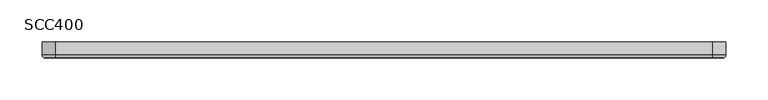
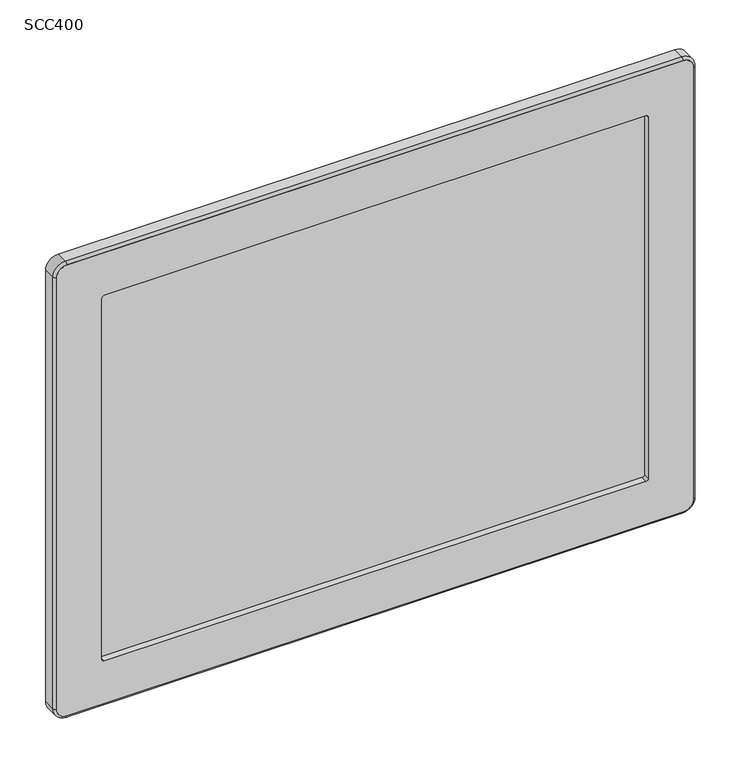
"""IFC4 building model written with IfcOpenShell, lengths in millimetres: furniture geometry, Stance_HC-Camber-Mirror : SCC400."""

from ifc_helpers import new_model, si_unit, point, frame, frame_2d, origin, place, context, project, spatial, polyline, circle_curve, ellipse_curve, trimmed, segment, composite_curve, outline, extrude, source, transform, mapped, element, save
from ifc_brep_helpers import plane_surface, cylinder_surface, revolved_surface, advanced_brep


def scc400_d04c1b15(model_context):
    return source(origin(), model_context, "Body", "SolidModel", [
        extrude(outline(composite_curve([segment(polyline([(1463.6750484, 342.9000123), (1463.6750484, -342.8999892)]), True, "CONTINUOUS"), segment(trimmed(circle_curve(frame_2d((1460.5000515, -342.8999892)), 3.174997), [point((1463.6750484, -342.8999892))], [point((1460.5000515, -346.0749862))], False, "CARTESIAN"), True, "CONTINUOUS"), segment(polyline([(1460.5000515, -346.0749862), (977.9000242, -346.0749862)]), True, "CONTINUOUS"), segment(trimmed(circle_curve(frame_2d((977.9000242, -342.8999862)), 3.175), [point((977.9000242, -346.0749862))], [point((974.7250242, -342.8999862))], False, "CARTESIAN"), True, "CONTINUOUS"), segment(polyline([(974.7250242, -342.8999862), (974.7250242, 342.9000123)]), True, "CONTINUOUS"), segment(trimmed(circle_curve(frame_2d((977.9000242, 342.9000123)), 3.175), [point((974.7250242, 342.9000123))], [point((977.9000242, 346.0750123))], False, "CARTESIAN"), True, "CONTINUOUS"), segment(polyline([(977.9000242, 346.0750123), (1460.5000484, 346.0750123)]), True, "CONTINUOUS"), segment(trimmed(circle_curve(frame_2d((1460.5000484, 342.9000123)), 3.175), [point((1460.5000484, 346.0750123))], [point((1463.6750484, 342.9000123))], False, "CARTESIAN"), True, "CONTINUOUS")], self_intersect=False)), frame((0.0, -7.3919886, 0.0), z_axis=(0.0, 1.0, 0.0), x_axis=(0.0, 0.0, 1.0)), (0.0, 0.0, 1.0), 7.3919886),
        extrude(outline(composite_curve([segment(polyline([(1463.6750484, 342.9000123), (1463.6750484, -342.8999892)]), True, "CONTINUOUS"), segment(trimmed(circle_curve(frame_2d((1460.5000515, -342.8999892)), 3.174997), [point((1463.6750484, -342.8999892))], [point((1460.5000515, -346.0749862))], False, "CARTESIAN"), True, "CONTINUOUS"), segment(polyline([(1460.5000515, -346.0749862), (977.9000242, -346.0749862)]), True, "CONTINUOUS"), segment(trimmed(circle_curve(frame_2d((977.9000242, -342.8999862)), 3.175), [point((977.9000242, -346.0749862))], [point((974.7250242, -342.8999862))], False, "CARTESIAN"), True, "CONTINUOUS"), segment(polyline([(974.7250242, -342.8999862), (974.7250242, 342.9000123)]), True, "CONTINUOUS"), segment(trimmed(circle_curve(frame_2d((977.9000242, 342.9000123)), 3.175), [point((974.7250242, 342.9000123))], [point((977.9000242, 346.0750123))], False, "CARTESIAN"), True, "CONTINUOUS"), segment(polyline([(977.9000242, 346.0750123), (1460.5000484, 346.0750123)]), True, "CONTINUOUS"), segment(trimmed(circle_curve(frame_2d((1460.5000484, 342.9000123)), 3.175), [point((1460.5000484, 346.0750123))], [point((1463.6750484, 342.9000123))], False, "CARTESIAN"), True, "CONTINUOUS")], self_intersect=False)), frame((0.0, -10.4384745, 0.0), z_axis=(0.0, 1.0, 0.0), x_axis=(0.0, 0.0, 1.0)), (0.0, 0.0, 1.0), 3.0464859),
        extrude(outline(composite_curve([segment(polyline([(1520.8249758, 390.5249877), (1520.8249758, -390.5249877)]), True, "CONTINUOUS"), segment(trimmed(circle_curve(frame_2d((1508.125, -390.5249877)), 12.6999758), [point((1520.8249758, -390.5249877))], [point((1508.125, -403.2249635))], False, "CARTESIAN"), True, "CONTINUOUS"), segment(polyline([(1508.125, -403.2249635), (930.275, -403.2249635)]), True, "CONTINUOUS"), segment(trimmed(circle_curve(frame_2d((930.275, -390.5249877)), 12.6999758), [point((930.275, -403.2249635))], [point((917.5750242, -390.5249877))], False, "CARTESIAN"), True, "CONTINUOUS"), segment(polyline([(917.5750242, -390.5249877), (917.5750242, 390.5249877)]), True, "CONTINUOUS"), segment(trimmed(circle_curve(frame_2d((930.275, 390.5249877)), 12.6999758), [point((917.5750242, 390.5249877))], [point((930.275, 403.2249635))], False, "CARTESIAN"), True, "CONTINUOUS"), segment(polyline([(930.275, 403.2249635), (1508.125, 403.2249635)]), True, "CONTINUOUS"), segment(trimmed(circle_curve(frame_2d((1508.125, 390.5249877)), 12.6999758), [point((1508.125, 403.2249635))], [point((1520.8249758, 390.5249877))], False, "CARTESIAN"), True, "CONTINUOUS")], self_intersect=False), holes=[composite_curve([segment(trimmed(circle_curve(frame_2d((1460.5000484, 342.9000123)), 3.175), [point((1463.6750484, 342.9000123))], [point((1460.5000484, 346.0750123))], True, "CARTESIAN"), True, "CONTINUOUS"), segment(polyline([(1460.5000484, 346.0750123), (977.9000242, 346.0750123)]), True, "CONTINUOUS"), segment(trimmed(circle_curve(frame_2d((977.9000242, 342.9000123)), 3.175), [point((977.9000242, 346.0750123))], [point((974.7250242, 342.9000123))], True, "CARTESIAN"), True, "CONTINUOUS"), segment(polyline([(974.7250242, 342.9000123), (974.7250242, -342.8999862)]), True, "CONTINUOUS"), segment(trimmed(circle_curve(frame_2d((977.9000242, -342.8999862)), 3.175), [point((974.7250242, -342.8999862))], [point((977.9000242, -346.0749862))], True, "CARTESIAN"), True, "CONTINUOUS"), segment(polyline([(977.9000242, -346.0749862), (1460.5000515, -346.0749862)]), True, "CONTINUOUS"), segment(trimmed(circle_curve(frame_2d((1460.5000515, -342.8999892)), 3.174997), [point((1460.5000515, -346.0749862))], [point((1463.6750484, -342.8999892))], True, "CARTESIAN"), True, "CONTINUOUS"), segment(polyline([(1463.6750484, -342.8999892), (1463.6750484, 342.9000123)]), True, "CONTINUOUS")], self_intersect=False)]), frame((0.0, -19.05, 0.0), z_axis=(0.0, 1.0, 0.0), x_axis=(0.0, 0.0, 1.0)), (0.0, 0.0, 1.0), 19.05),
        advanced_brep(
        [(403.2249635, -19.05, 1508.125), (390.5249877, -19.05, 1520.8249758), (390.5249877, 0.0, 1520.8249758), (403.2249635, 0.0, 1508.125), (406.3999877, -15.8749996, 1508.125), (390.5249877, -15.8749996, 1524.0), (406.3999877, 0.0, 1508.125), (390.5249877, 0.0, 1524.0), (403.2249635, 0.0, 930.275), (403.2249635, -19.05, 930.275), (406.3999877, -15.8749996, 930.275), (406.3999877, 0.0, 930.275), (390.5249877, -19.05, 917.5750242), (390.5249877, 0.0, 917.5750242), (390.5249877, -15.8749996, 914.4), (390.5249877, 0.0, 914.4), (-390.5249877, 0.0, 917.5750242), (-390.5249877, -19.05, 917.5750242), (-390.5249877, -15.8749996, 914.4), (-390.5249877, 0.0, 914.4), (-403.2249635, -19.05, 930.275), (-403.2249635, 0.0, 930.275), (-406.3999877, -15.8749996, 930.275), (-406.3999877, 0.0, 930.275), (-403.2249635, 0.0, 1508.125), (-403.2249635, -19.05, 1508.125), (-406.3999877, -15.8749996, 1508.125), (-406.3999877, 0.0, 1508.125), (-390.5249877, -19.05, 1520.8249758), (-390.5249877, 0.0, 1520.8249758), (-390.5249877, -15.8749996, 1524.0), (-390.5249877, 0.0, 1524.0)],
        [
            (0, 1, circle_curve(frame((390.5249877, -19.05, 1508.125), z_axis=(0.0, -1.0, 0.0), x_axis=(0.0, 0.0, 1.0)), 12.6999758)),
            (1, 2),
            (2, 3, circle_curve(frame((390.5249877, 0.0, 1508.125), z_axis=(0.0, 1.0, 0.0), x_axis=(0.0, 0.0, 1.0)), 12.6999758)),
            (3, 0),
            (4, 5, circle_curve(frame((390.5249877, -15.8749996, 1508.125), z_axis=(0.0, -1.0, 0.0), x_axis=(0.0, 0.0, 1.0)), 15.875)),
            (5, 1, circle_curve(frame((390.5249877, -15.8749996, 1520.8249996), z_axis=(1.0, 0.0, 0.0), x_axis=(0.0, 0.0, 1.0)), 3.1750004)),
            (0, 4, circle_curve(frame((403.2249873, -15.8749996, 1508.125), z_axis=(0.0, 0.0, 1.0), x_axis=(1.0, 0.0, 0.0)), 3.1750004)),
            (6, 7, circle_curve(frame((390.5249877, 0.0, 1508.125), z_axis=(0.0, -1.0, 0.0), x_axis=(0.0, 0.0, 1.0)), 15.875)),
            (7, 5),
            (4, 6),
            (3, 8),
            (8, 9),
            (9, 0),
            (9, 10, circle_curve(frame((403.2249873, -15.8749996, 930.275), z_axis=(0.0, 0.0, 1.0), x_axis=(1.0, 0.0, 0.0)), 3.1750004)),
            (10, 4),
            (10, 11),
            (11, 6),
            (12, 9, circle_curve(frame((390.5249877, -19.05, 930.275), z_axis=(0.0, -1.0, 0.0), x_axis=(1.0, 0.0, 0.0)), 12.6999758)),
            (8, 13, circle_curve(frame((390.5249877, 0.0, 930.275), z_axis=(0.0, 1.0, 0.0), x_axis=(1.0, 0.0, 0.0)), 12.6999758)),
            (13, 12),
            (14, 10, circle_curve(frame((390.5249877, -15.8749996, 930.275), z_axis=(0.0, -1.0, 0.0), x_axis=(1.0, 0.0, 0.0)), 15.875)),
            (12, 14, circle_curve(frame((390.5249877, -15.8749996, 917.5750004), z_axis=(1.0, 0.0, 0.0), x_axis=(0.0, 0.0, -1.0)), 3.1750004)),
            (15, 11, circle_curve(frame((390.5249877, 0.0, 930.275), z_axis=(0.0, -1.0, 0.0), x_axis=(1.0, 0.0, 0.0)), 15.875)),
            (14, 15),
            (13, 16),
            (16, 17),
            (17, 12),
            (17, 18, circle_curve(frame((-390.5249877, -15.8749996, 917.5750004), z_axis=(1.0, 0.0, 0.0), x_axis=(0.0, 0.0, -1.0)), 3.1750004)),
            (18, 14),
            (18, 19),
            (19, 15),
            (20, 17, circle_curve(frame((-390.5249877, -19.05, 930.275), z_axis=(0.0, -1.0, 0.0), x_axis=(0.0, 0.0, -1.0)), 12.6999758)),
            (16, 21, circle_curve(frame((-390.5249877, 0.0, 930.275), z_axis=(0.0, 1.0, 0.0), x_axis=(0.0, 0.0, -1.0)), 12.6999758)),
            (21, 20),
            (22, 18, circle_curve(frame((-390.5249877, -15.8749996, 930.275), z_axis=(0.0, -1.0, 0.0), x_axis=(0.0, 0.0, -1.0)), 15.875)),
            (20, 22, circle_curve(frame((-403.2249873, -15.8749996, 930.275), z_axis=(0.0, 0.0, -1.0), x_axis=(-1.0, 0.0, 0.0)), 3.1750004)),
            (23, 19, circle_curve(frame((-390.5249877, 0.0, 930.275), z_axis=(0.0, -1.0, 0.0), x_axis=(0.0, 0.0, -1.0)), 15.875)),
            (22, 23),
            (21, 24),
            (24, 25),
            (25, 20),
            (25, 26, circle_curve(frame((-403.2249873, -15.8749996, 1508.125), z_axis=(0.0, 0.0, -1.0), x_axis=(-1.0, 0.0, 0.0)), 3.1750004)),
            (26, 22),
            (26, 27),
            (27, 23),
            (28, 25, circle_curve(frame((-390.5249877, -19.05, 1508.125), z_axis=(0.0, -1.0, 0.0), x_axis=(-1.0, 0.0, 0.0)), 12.6999758)),
            (24, 29, circle_curve(frame((-390.5249877, 0.0, 1508.125), z_axis=(0.0, 1.0, 0.0), x_axis=(-1.0, 0.0, 0.0)), 12.6999758)),
            (29, 28),
            (30, 26, circle_curve(frame((-390.5249877, -15.8749996, 1508.125), z_axis=(0.0, -1.0, 0.0), x_axis=(-1.0, 0.0, 0.0)), 15.875)),
            (28, 30, circle_curve(frame((-390.5249877, -15.8749996, 1520.8249996), z_axis=(-1.0, 0.0, 0.0), x_axis=(0.0, 0.0, 1.0)), 3.1750004)),
            (31, 27, circle_curve(frame((-390.5249877, 0.0, 1508.125), z_axis=(0.0, -1.0, 0.0), x_axis=(-1.0, 0.0, 0.0)), 15.875)),
            (30, 31),
            (29, 2),
            (1, 28),
            (5, 30),
            (7, 31),
        ],
        [
            revolved_surface(polyline([(390.5249877, 0.0, 1520.8249758), (390.5249877, -19.05, 1520.8249758)]), (390.5249877, 0.0, 1508.125), (0.0, 1.0, 0.0)),
            revolved_surface(trimmed(ellipse_curve(frame((390.5249877, -15.8749996, 1520.8249996), z_axis=(-1.0, 0.0, 0.0), x_axis=(0.0, 0.0, 1.0)), 3.1750004, 3.1750004), [point((390.5249877, -19.05, 1520.8249758))], [point((390.5249877, -15.8749996, 1524.0))], True, "CARTESIAN"), (390.5249877, 0.0, 1508.125), (0.0, 1.0, 0.0)),
            cylinder_surface(frame((390.5249877, 0.0, 1508.125), z_axis=(0.0, 1.0, 0.0), x_axis=(0.0, 0.0, 1.0)), 15.875),
            plane_surface(frame((403.2249635, 0.0, 1508.125), z_axis=(-1.0, 0.0, 0.0), x_axis=(0.0, 0.0, -1.0))),
            cylinder_surface(frame((403.2249873, -15.8749996, 1508.125), z_axis=(0.0, 0.0, 1.0), x_axis=(1.0, 0.0, 0.0)), 3.1750004),
            plane_surface(frame((406.3999877, -15.8749996, 1508.125), z_axis=(1.0, 0.0, 0.0), x_axis=(0.0, 0.0, -1.0))),
            revolved_surface(polyline([(403.2249635, 0.0, 930.275), (403.2249635, -19.05, 930.275)]), (390.5249877, 0.0, 930.275), (0.0, 1.0, 0.0)),
            revolved_surface(trimmed(ellipse_curve(frame((403.2249873, -15.8749996, 930.275), z_axis=(0.0, 0.0, 1.0), x_axis=(1.0, 0.0, 0.0)), 3.1750004, 3.1750004), [point((403.2249635, -19.05, 930.275))], [point((406.3999877, -15.8749996, 930.275))], True, "CARTESIAN"), (390.5249877, 0.0, 930.275), (0.0, 1.0, 0.0)),
            cylinder_surface(frame((390.5249877, 0.0, 930.275), z_axis=(0.0, 1.0, 0.0), x_axis=(1.0, 0.0, 0.0)), 15.875),
            plane_surface(frame((390.5249877, 0.0, 917.5750242), z_axis=(0.0, 0.0, 1.0), x_axis=(-1.0, 0.0, 0.0))),
            cylinder_surface(frame((390.5249877, -15.8749996, 917.5750004), z_axis=(1.0, 0.0, 0.0), x_axis=(0.0, 0.0, -1.0)), 3.1750004),
            plane_surface(frame((390.5249877, -15.8749996, 914.4), z_axis=(0.0, 0.0, -1.0), x_axis=(-1.0, 0.0, 0.0))),
            revolved_surface(polyline([(-390.5249877, 0.0, 917.5750242), (-390.5249877, -19.05, 917.5750242)]), (-390.5249877, 0.0, 930.275), (0.0, 1.0, 0.0)),
            revolved_surface(trimmed(ellipse_curve(frame((-390.5249877, -15.8749996, 917.5750004), z_axis=(1.0, 0.0, 0.0), x_axis=(0.0, 0.0, -1.0)), 3.1750004, 3.1750004), [point((-390.5249877, -19.05, 917.5750242))], [point((-390.5249877, -15.8749996, 914.4))], True, "CARTESIAN"), (-390.5249877, 0.0, 930.275), (0.0, 1.0, 0.0)),
            cylinder_surface(frame((-390.5249877, 0.0, 930.275), z_axis=(0.0, 1.0, 0.0), x_axis=(0.0, 0.0, -1.0)), 15.875),
            plane_surface(frame((-403.2249635, 0.0, 930.275), z_axis=(1.0, 0.0, 0.0), x_axis=(0.0, 0.0, 1.0))),
            cylinder_surface(frame((-403.2249873, -15.8749996, 930.275), z_axis=(0.0, 0.0, -1.0), x_axis=(-1.0, 0.0, 0.0)), 3.1750004),
            plane_surface(frame((-406.3999877, -15.8749996, 930.275), z_axis=(-1.0, 0.0, 0.0), x_axis=(0.0, 0.0, 1.0))),
            revolved_surface(polyline([(-403.2249635, 0.0, 1508.125), (-403.2249635, -19.05, 1508.125)]), (-390.5249877, 0.0, 1508.125), (0.0, 1.0, 0.0)),
            revolved_surface(trimmed(ellipse_curve(frame((-403.2249873, -15.8749996, 1508.125), z_axis=(0.0, 0.0, -1.0), x_axis=(-1.0, 0.0, 0.0)), 3.1750004, 3.1750004), [point((-403.2249635, -19.05, 1508.125))], [point((-406.3999877, -15.8749996, 1508.125))], True, "CARTESIAN"), (-390.5249877, 0.0, 1508.125), (0.0, 1.0, 0.0)),
            cylinder_surface(frame((-390.5249877, 0.0, 1508.125), z_axis=(0.0, 1.0, 0.0), x_axis=(-1.0, 0.0, 0.0)), 15.875),
            plane_surface(frame((-390.5249877, 0.0, 1520.8249758), z_axis=(0.0, 0.0, -1.0), x_axis=(1.0, 0.0, 0.0))),
            cylinder_surface(frame((-390.5249877, -15.8749996, 1520.8249996), z_axis=(-1.0, 0.0, 0.0), x_axis=(0.0, 0.0, 1.0)), 3.1750004),
            plane_surface(frame((-390.5249877, -15.8749996, 1524.0), z_axis=(0.0, 0.0, 1.0), x_axis=(1.0, 0.0, 0.0))),
            plane_surface(frame((-390.5249877, 0.0, 1524.0), z_axis=(0.0, 1.0, 0.0), x_axis=(1.0, 0.0, 0.0))),
        ],
        [
            (0, [[1, 2, 3, 4]]),
            (1, [[5, 6, -1, 7]]),
            (2, [[8, 9, -5, 10]]),
            (3, [[-4, 11, 12, 13]]),
            (4, [[-7, -13, 14, 15]]),
            (5, [[-10, -15, 16, 17]]),
            (6, [[18, -12, 19, 20]]),
            (7, [[21, -14, -18, 22]]),
            (8, [[23, -16, -21, 24]]),
            (9, [[-20, 25, 26, 27]]),
            (10, [[-22, -27, 28, 29]]),
            (11, [[-24, -29, 30, 31]]),
            (12, [[32, -26, 33, 34]]),
            (13, [[35, -28, -32, 36]]),
            (14, [[37, -30, -35, 38]]),
            (15, [[-34, 39, 40, 41]]),
            (16, [[-36, -41, 42, 43]]),
            (17, [[-38, -43, 44, 45]]),
            (18, [[46, -40, 47, 48]]),
            (19, [[49, -42, -46, 50]]),
            (20, [[51, -44, -49, 52]]),
            (21, [[-48, 53, -2, 54]]),
            (22, [[-50, -54, -6, 55]]),
            (23, [[-52, -55, -9, 56]]),
            (24, [[-45, -51, -56, -8, -17, -23, -31, -37], [-53, -47, -39, -33, -25, -19, -11, -3]]),
        ],
    ),
    ])


if __name__ == "__main__":
    model = new_model("IFC4")
    model_context = context("Model", 3, world=origin())
    ifc_project = project(units=[si_unit("LENGTHUNIT", "METRE", prefix="MILLI")], contexts=[model_context])
    site = spatial("IfcSite", under=ifc_project)
    building = spatial("IfcBuilding", under=site)
    placement = place(None, origin())
    scc400_shape = scc400_d04c1b15(model_context)
    element("IfcFurniture", 1, ObjectType="Stance_HC-Camber-Mirror : SCC400", at=placement, inside=building, context=model_context, shape_type="MappedRepresentation", body=[
        mapped(scc400_shape, transform((0.0, 0.0, 0.0), x_axis=(1.0, 0.0, 0.0), y_axis=(0.0, 1.0, 0.0), z_axis=(0.0, 0.0, 1.0))),
    ])
    save(model, "model.ifc")
